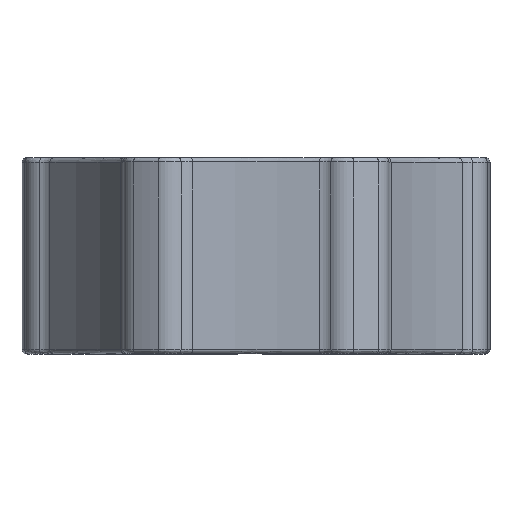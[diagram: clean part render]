
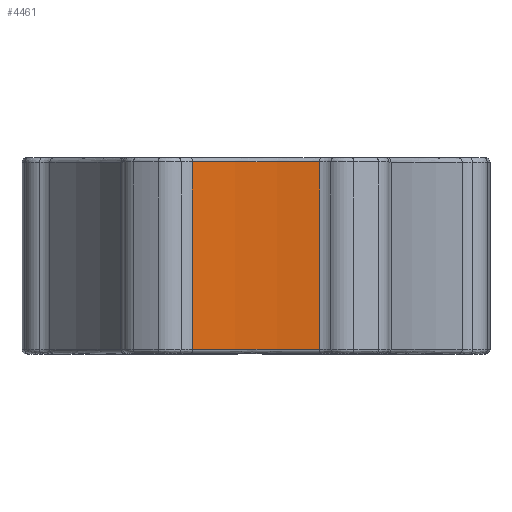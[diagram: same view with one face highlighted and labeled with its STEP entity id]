
A CAD part, top view. The second image highlights one B-rep face of the part: STEP entity #4461.
In plain terms, the highlighted cylindrical face has radius 25 mm (diameter 50 mm), a partial arc.
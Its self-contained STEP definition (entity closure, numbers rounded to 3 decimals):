
#20 = CARTESIAN_POINT ( 'NONE',  ( -2.931, -9., 9.422 ) ) ;
#47 = ORIENTED_EDGE ( 'NONE', *, *, #6682, .F. ) ;
#266 = CIRCLE ( 'NONE', #1195, 25. ) ;
#327 = ORIENTED_EDGE ( 'NONE', *, *, #3977, .F. ) ;
#385 = CARTESIAN_POINT ( 'NONE',  ( -2.931, -8.8, 9.422 ) ) ;
#1195 = AXIS2_PLACEMENT_3D ( 'NONE', #4267, #2873, #7503 ) ;
#1308 = CARTESIAN_POINT ( 'NONE',  ( 2.931, -8.8, 9.422 ) ) ;
#1472 = FACE_OUTER_BOUND ( 'NONE', #5267, .T. ) ;
#1476 = EDGE_CURVE ( 'NONE', #4996, #1481, #1614, .T. ) ;
#1481 = VERTEX_POINT ( 'NONE', #385 ) ;
#1614 = CIRCLE ( 'NONE', #7507, 25. ) ;
#2489 = VERTEX_POINT ( 'NONE', #2950 ) ;
#2557 = DIRECTION ( 'NONE',  ( 0., -1., 0. ) ) ;
#2873 = DIRECTION ( 'NONE',  ( 0., -1., 0. ) ) ;
#2950 = CARTESIAN_POINT ( 'NONE',  ( -2.931, -0.2, 9.422 ) ) ;
#3508 = LINE ( 'NONE', #20, #8163 ) ;
#3715 = CYLINDRICAL_SURFACE ( 'NONE', #6713, 25. ) ;
#3937 = DIRECTION ( 'NONE',  ( 0., 1., 0. ) ) ;
#3977 = EDGE_CURVE ( 'NONE', #1481, #2489, #3508, .T. ) ;
#4267 = CARTESIAN_POINT ( 'NONE',  ( 0., -0.2, 34.25 ) ) ;
#4326 = ORIENTED_EDGE ( 'NONE', *, *, #1476, .F. ) ;
#4461 = ADVANCED_FACE ( 'NONE', ( #1472 ), #3715, .F. ) ;
#4800 = CARTESIAN_POINT ( 'NONE',  ( 0., -9., 34.25 ) ) ;
#4996 = VERTEX_POINT ( 'NONE', #1308 ) ;
#5140 = CARTESIAN_POINT ( 'NONE',  ( 2.931, -0.2, 9.422 ) ) ;
#5267 = EDGE_LOOP ( 'NONE', ( #6660, #327, #4326, #47 ) ) ;
#5417 = VECTOR ( 'NONE', #2557, 1000. ) ;
#5573 = DIRECTION ( 'NONE',  ( 0., 0., -1. ) ) ;
#6247 = DIRECTION ( 'NONE',  ( 0., 0., 1. ) ) ;
#6497 = CARTESIAN_POINT ( 'NONE',  ( 2.931, -9., 9.422 ) ) ;
#6660 = ORIENTED_EDGE ( 'NONE', *, *, #7780, .F. ) ;
#6682 = EDGE_CURVE ( 'NONE', #7505, #4996, #7523, .T. ) ;
#6713 = AXIS2_PLACEMENT_3D ( 'NONE', #4800, #8194, #6247 ) ;
#7322 = CARTESIAN_POINT ( 'NONE',  ( 0., -8.8, 34.25 ) ) ;
#7429 = DIRECTION ( 'NONE',  ( 0., 1., 0. ) ) ;
#7503 = DIRECTION ( 'NONE',  ( 0., 0., 1. ) ) ;
#7505 = VERTEX_POINT ( 'NONE', #5140 ) ;
#7507 = AXIS2_PLACEMENT_3D ( 'NONE', #7322, #7429, #5573 ) ;
#7523 = LINE ( 'NONE', #6497, #5417 ) ;
#7780 = EDGE_CURVE ( 'NONE', #2489, #7505, #266, .T. ) ;
#8163 = VECTOR ( 'NONE', #3937, 1000. ) ;
#8194 = DIRECTION ( 'NONE',  ( 0., 1., 0. ) ) ;
